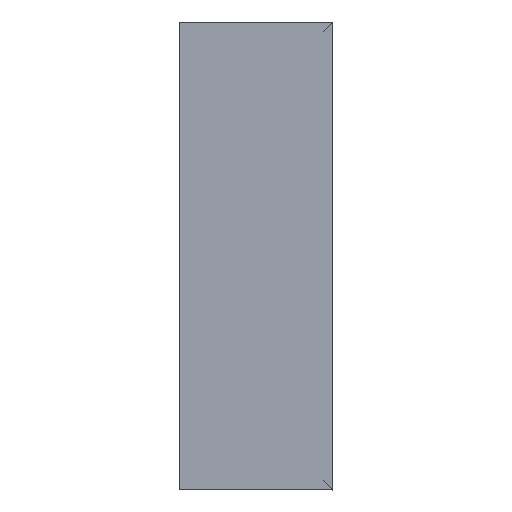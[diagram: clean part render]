
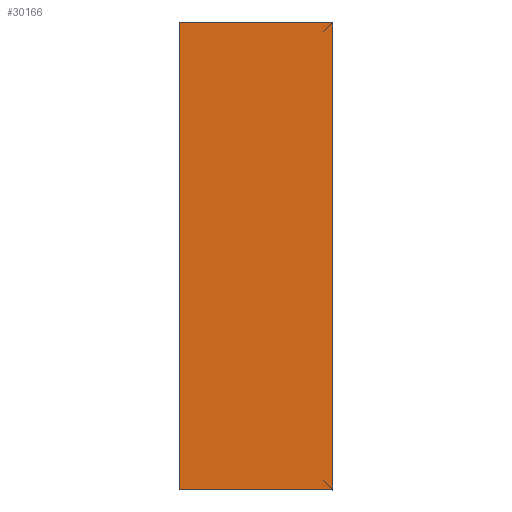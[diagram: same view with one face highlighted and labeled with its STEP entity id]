
A CAD part, left-side view. The second image highlights one B-rep face of the part: STEP entity #30166.
In plain terms, the highlighted planar face has unit normal (-1, 0, 0) as drawn and (0, 0, -1) by its records, which use the part's own axes.
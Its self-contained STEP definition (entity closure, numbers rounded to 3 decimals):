
#312 = DIRECTION ( 'NONE',  ( 0., 1., 0. ) ) ;
#2193 = DIRECTION ( 'NONE',  ( -1., 0., 0. ) ) ;
#3153 = ORIENTED_EDGE ( 'NONE', *, *, #18448, .F. ) ;
#5008 = AXIS2_PLACEMENT_3D ( 'NONE', #43431, #66303, #14946 ) ;
#6129 = EDGE_CURVE ( 'NONE', #44479, #7218, #28505, .T. ) ;
#7210 = VECTOR ( 'NONE', #69349, 1000. ) ;
#7218 = VERTEX_POINT ( 'NONE', #64452 ) ;
#8956 = CARTESIAN_POINT ( 'NONE',  ( -275., 90., 0. ) ) ;
#9384 = LINE ( 'NONE', #33002, #14522 ) ;
#10027 = CARTESIAN_POINT ( 'NONE',  ( -275., 90., 0. ) ) ;
#10634 = EDGE_CURVE ( 'NONE', #32956, #44479, #58839, .T. ) ;
#14522 = VECTOR ( 'NONE', #43144, 1000. ) ;
#14946 = DIRECTION ( 'NONE',  ( -1., 0., 0. ) ) ;
#15087 = EDGE_CURVE ( 'NONE', #7218, #27977, #32571, .T. ) ;
#15638 = VECTOR ( 'NONE', #2193, 1000. ) ;
#18448 = EDGE_CURVE ( 'NONE', #27977, #32956, #9384, .T. ) ;
#21640 = EDGE_LOOP ( 'NONE', ( #40218, #43287, #3153, #66345 ) ) ;
#27977 = VERTEX_POINT ( 'NONE', #10027 ) ;
#28505 = LINE ( 'NONE', #51717, #67113 ) ;
#30166 = ADVANCED_FACE ( 'NONE', ( #49051 ), #71945, .T. ) ;
#32571 = LINE ( 'NONE', #8956, #15638 ) ;
#32956 = VERTEX_POINT ( 'NONE', #64239 ) ;
#33002 = CARTESIAN_POINT ( 'NONE',  ( -275., -90., 0. ) ) ;
#40218 = ORIENTED_EDGE ( 'NONE', *, *, #6129, .F. ) ;
#43144 = DIRECTION ( 'NONE',  ( 0., -1., 0. ) ) ;
#43287 = ORIENTED_EDGE ( 'NONE', *, *, #10634, .F. ) ;
#43431 = CARTESIAN_POINT ( 'NONE',  ( 0., 0., 0. ) ) ;
#44479 = VERTEX_POINT ( 'NONE', #61739 ) ;
#49051 = FACE_OUTER_BOUND ( 'NONE', #21640, .T. ) ;
#51717 = CARTESIAN_POINT ( 'NONE',  ( 275., -90., 0. ) ) ;
#58839 = LINE ( 'NONE', #70472, #7210 ) ;
#61739 = CARTESIAN_POINT ( 'NONE',  ( 275., -90., 0. ) ) ;
#64239 = CARTESIAN_POINT ( 'NONE',  ( -275., -90., 0. ) ) ;
#64452 = CARTESIAN_POINT ( 'NONE',  ( 275., 90., 0. ) ) ;
#66303 = DIRECTION ( 'NONE',  ( 0., 0., -1. ) ) ;
#66345 = ORIENTED_EDGE ( 'NONE', *, *, #15087, .F. ) ;
#67113 = VECTOR ( 'NONE', #312, 1000. ) ;
#69349 = DIRECTION ( 'NONE',  ( 1., 0., 0. ) ) ;
#70472 = CARTESIAN_POINT ( 'NONE',  ( -275., -90., 0. ) ) ;
#71945 = PLANE ( 'NONE',  #5008 ) ;
